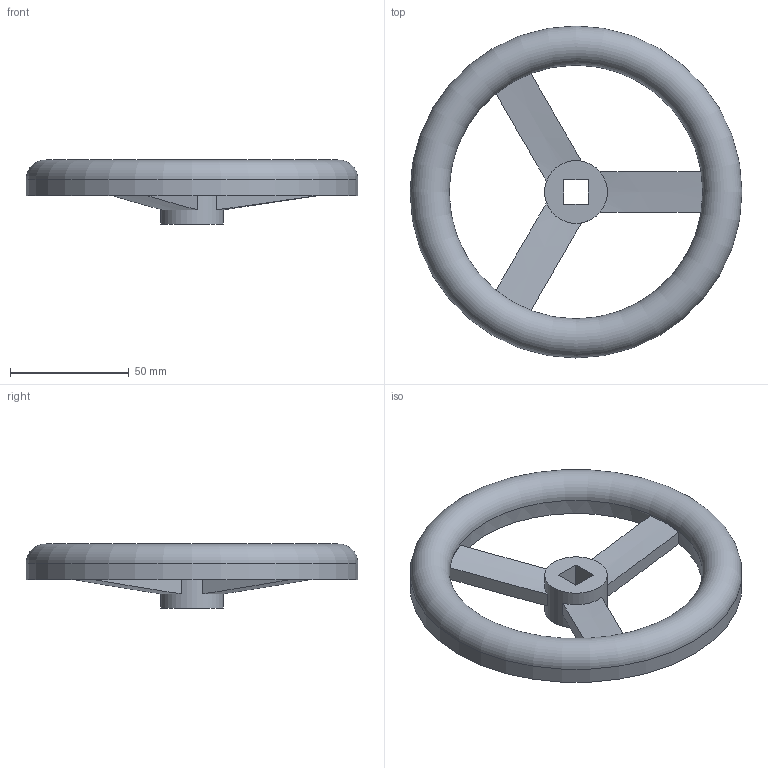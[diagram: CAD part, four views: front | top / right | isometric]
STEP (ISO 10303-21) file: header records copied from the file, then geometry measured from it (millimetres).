
FILE_DESCRIPTION( ( 'STEP AP203' ), '1' );
FILE_NAME( 'p:/temp/worker_173/temp/exporttempdir_812_81_CplIS/format_0/5007615 7800 DN3_4__ - 2__ (400).stp', '2021-01-13T08:47:16', ( 'License CC BY-ND 4.0' ), ( 'CADENAS' ), ' ', 'PARTsolutions', ' ' );
FILE_SCHEMA( ( 'CONFIG_CONTROL_DESIGN' ) );
Length unit declared in the file: millimetre
Products named in the file (1): _5007615 7800 DN3/4'' - 2'' (400)
Bounding box: 140 x 140 x 26.99 mm (x, y, z)
Volume: 67717.7 mm3; surface area: 37247.8 mm2
Topology: 1 solids, 1 shells, 27 faces, 71 edges, 44 vertices
Faces by surface type: plane 14, cone 6, cylinder 5, torus 2
Full cylindrical faces by diameter (mm): 26.5 x1, 107 x1, 114.2 x1, 132.8 x1, 140 x1
Entity records: 906 total; most frequent: CARTESIAN_POINT 237, DIRECTION 128, ORIENTED_EDGE 120, EDGE_CURVE 60, AXIS2_PLACEMENT_3D 52, EDGE_LOOP 41, VERTEX_POINT 41, FACE_OUTER_BOUND 34
